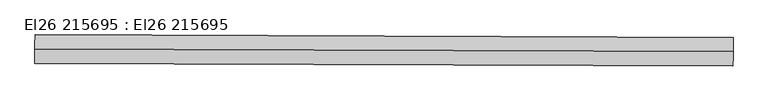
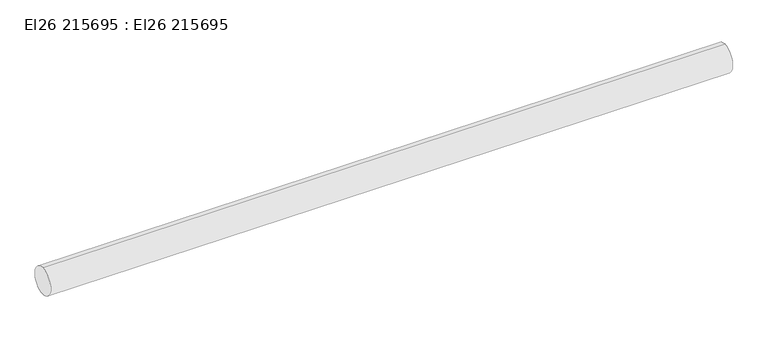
"""IFC4 building model written with IfcOpenShell, lengths in millimetres: cable carrier segment geometry, El26 215695 : El26 215695."""

from ifc_helpers import new_model, si_unit, point, frame, frame_2d, origin, place, context, project, spatial, circle_curve, trimmed, segment, composite_curve, outline, extrude, source, transform, mapped, element, save


def el26_215695_el26_215695_147f33a0(model_context):
    return source(origin(), model_context, "Body", "SweptSolid", [
        extrude(outline(composite_curve([segment(trimmed(circle_curve(frame_2d((0.0, -25.4)), 25.4), [point((0.0, -50.8))], [point((0.0, 0.0))], False, "CARTESIAN"), True, "CONTINUOUS"), segment(trimmed(circle_curve(frame_2d((0.0, -25.4)), 25.4), [point((0.0, 0.0))], [point((0.0, -50.8))], False, "CARTESIAN"), True, "CONTINUOUS")], self_intersect=False)), frame((25958.334381, 13217.4920074, 3025.4), z_axis=(-0.9999930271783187, 0.00373438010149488, 0.0), x_axis=(-0.00373438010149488, -0.9999930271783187, 0.0)), (0.0, 0.0, 1.0), 1236.08),
    ])


if __name__ == "__main__":
    model = new_model("IFC4")
    model_context = context("Model", 3, world=origin())
    ifc_project = project(units=[si_unit("LENGTHUNIT", "METRE", prefix="MILLI")], contexts=[model_context])
    site = spatial("IfcSite", under=ifc_project)
    building = spatial("IfcBuilding", under=site)
    placement = place(None, origin())
    el26_215695_el26_215695_shape = el26_215695_el26_215695_147f33a0(model_context)
    element("IfcCableCarrierSegment", 1, ObjectType="El26 215695 : El26 215695", at=placement, inside=building, context=model_context, shape_type="MappedRepresentation", body=[
        mapped(el26_215695_el26_215695_shape, transform((0.0, 0.0, 0.0), x_axis=(1.0, 0.0, 0.0), y_axis=(0.0, 1.0, 0.0), z_axis=(0.0, 0.0, 1.0))),
    ])
    save(model, "model.ifc")
